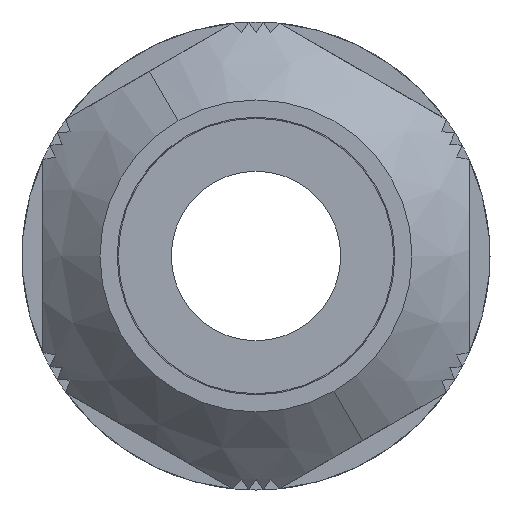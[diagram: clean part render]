
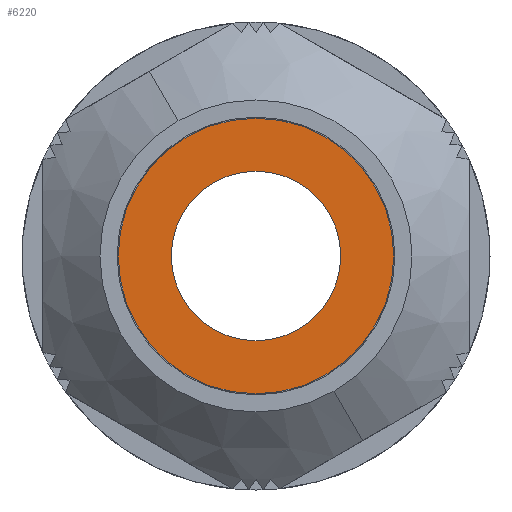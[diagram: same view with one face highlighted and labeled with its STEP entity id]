
A CAD part, left-side view. The second image highlights one B-rep face of the part: STEP entity #6220.
In plain terms, the highlighted planar face has unit normal (-1, 0, 0).
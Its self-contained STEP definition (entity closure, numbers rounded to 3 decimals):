
#5660=CARTESIAN_POINT('',(-66.,-0.278,-10.037));
#5670=VERTEX_POINT('',#5660);
#5830=CARTESIAN_POINT('',(-66.,-0.278,6.263));
#5840=VERTEX_POINT('',#5830);
#5870=CARTESIAN_POINT('',(-66.,-0.278,-1.887));
#5880=DIRECTION('',(-1.,0.,0.));
#5890=DIRECTION('',(0.,0.,1.));
#5900=AXIS2_PLACEMENT_3D('',#5870,#5880,#5890);
#5910=CIRCLE('',#5900,8.15);
#5920=EDGE_CURVE('',#5670,#5840,#5910,.T.);
#5970=CARTESIAN_POINT('',(-66.,-0.278,8.813));
#5980=DIRECTION('',(-1.,0.,0.));
#5990=DIRECTION('',(0.,0.,-1.));
#6000=AXIS2_PLACEMENT_3D('',#5970,#5980,#5990);
#6010=PLANE('',#6000);
#6020=CARTESIAN_POINT('',(-66.,-0.278,-1.887));
#6030=DIRECTION('',(-1.,0.,0.));
#6040=DIRECTION('',(0.,0.,1.));
#6050=AXIS2_PLACEMENT_3D('',#6020,#6030,#6040);
#6060=CIRCLE('',#6050,13.25);
#6070=CARTESIAN_POINT('',(-66.,-0.278,11.363));
#6080=VERTEX_POINT('',#6070);
#6090=CARTESIAN_POINT('',(-66.,-0.278,-15.137));
#6100=VERTEX_POINT('',#6090);
#6110=EDGE_CURVE('',#6080,#6100,#6060,.T.);
#6120=ORIENTED_EDGE('',*,*,#6110,.T.);
#6130=EDGE_CURVE('',#6100,#6080,#6060,.T.);
#6140=ORIENTED_EDGE('',*,*,#6130,.T.);
#6150=EDGE_LOOP('',(#6140,#6120));
#6160=FACE_OUTER_BOUND('',#6150,.T.);
#6170=EDGE_CURVE('',#5840,#5670,#5910,.T.);
#6180=ORIENTED_EDGE('',*,*,#6170,.F.);
#6190=ORIENTED_EDGE('',*,*,#5920,.F.);
#6200=EDGE_LOOP('',(#6190,#6180));
#6210=FACE_BOUND('',#6200,.T.);
#6220=ADVANCED_FACE('',(#6160,#6210),#6010,.T.);
